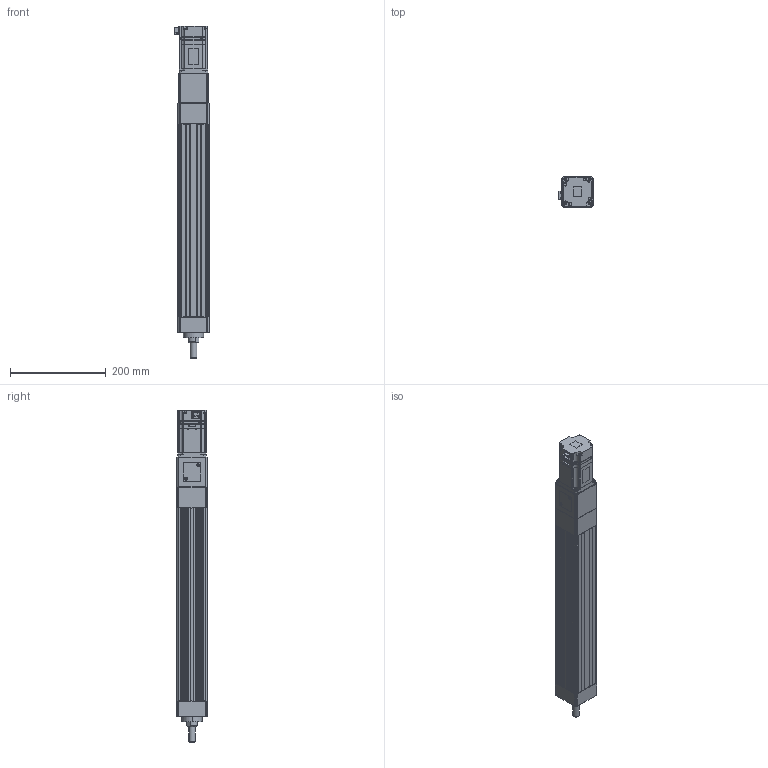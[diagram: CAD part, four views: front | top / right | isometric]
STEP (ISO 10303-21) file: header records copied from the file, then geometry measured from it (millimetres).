
FILE_DESCRIPTION (( 'STEP AP203' ), '1' );
FILE_NAME ('ANS065R-S300-05(10)(20)-W40-M.STEP', '2019-03-02T12:22:24', ( 'user' ), ( '' ), 'SwSTEP 2.0', 'SolidWorks 2013', '' );
FILE_SCHEMA (( 'CONFIG_CONTROL_DESIGN' ));
Length unit declared in the file: millimetre
Products named in the file (4): ANS065R S300 VER2; sgmjv_04a_a21; ANS065 ROD ST300-M; ANS065R-S300-05(10)(20)-W40-M
Assembly tree (3 placements, depth 2):
  ANS065R-S300-05(10)(20)-W40-M
    ANS065R S300 VER2
    sgmjv_04a_a21
    ANS065 ROD ST300-M
Bounding box: 71.3 x 65 x 694.6 mm (x, y, z)
Volume: 1685488.3 mm3; surface area: 383072.5 mm2
Topology: 3 solids, 7 shells, 1080 faces, 2853 edges, 1837 vertices
Faces by surface type: plane 636, cylinder 358, cone 86
Entity records: 33539 total; most frequent: CARTESIAN_POINT 5970, DIRECTION 5703, ORIENTED_EDGE 5658, EDGE_CURVE 2829, LINE 1999, VECTOR 1999, AXIS2_PLACEMENT_3D 1852, VERTEX_POINT 1837
